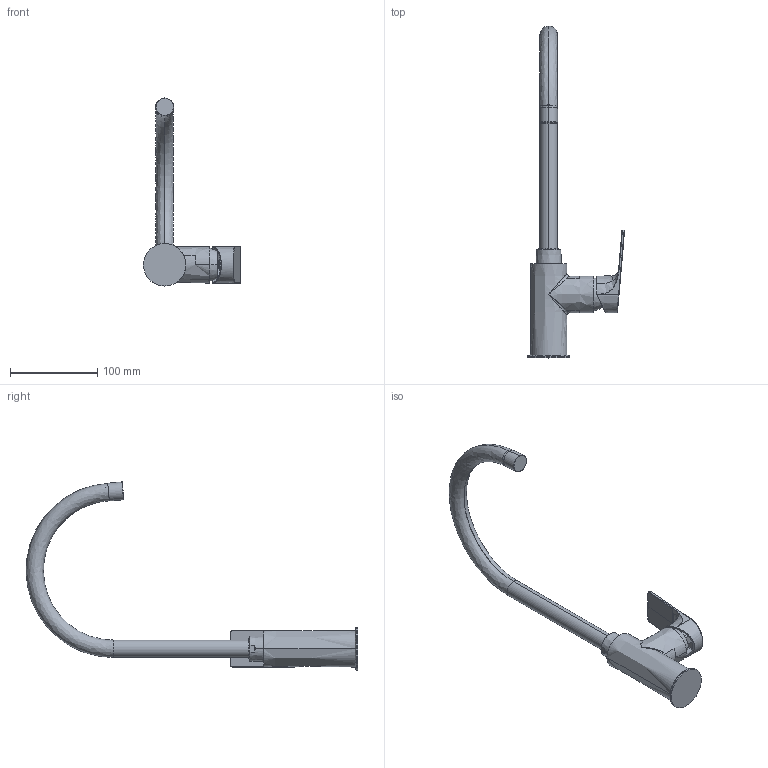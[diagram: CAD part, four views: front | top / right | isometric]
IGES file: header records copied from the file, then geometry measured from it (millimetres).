
Start section:  PTC IGES file: 78165_sw0001.igs
Global section: file name: 78165_sw0001.igs; native system: Creo Parametric by PTC Inc.; preprocessor: 2018100; author: volponeff; organization: Unknown; date: 20200527.112347; units: millimetre
Bounding box: 111.57 x 380.85 x 215.87 mm (x, y, z)
Surface area: 118557.2 mm2 (no closed solid volume)
Topology: 0 solids, 0 shells, 579 faces, 2732 edges, 2726 vertices
Faces by surface type: revolution 385, bspline 192, extrusion 2
